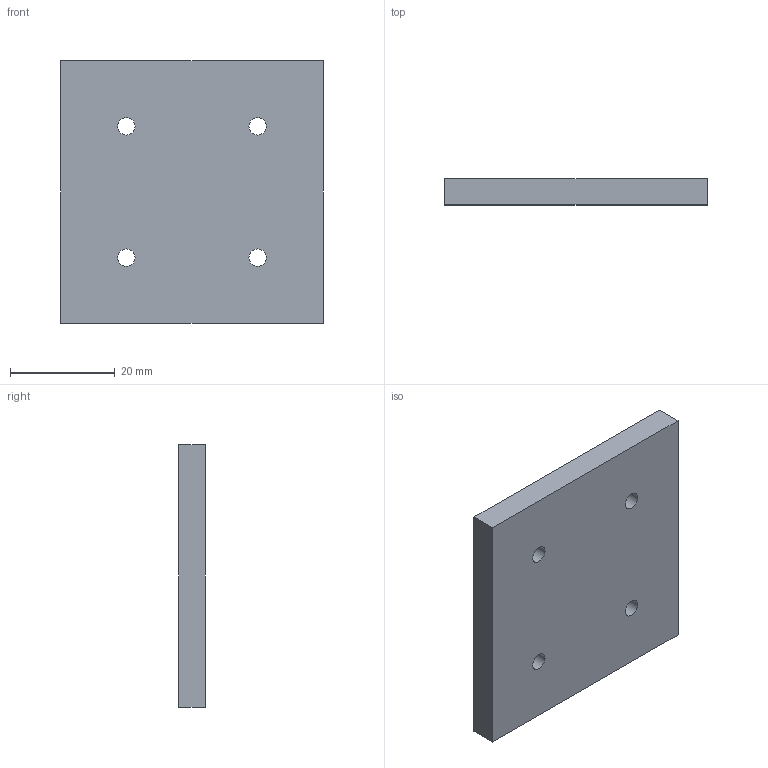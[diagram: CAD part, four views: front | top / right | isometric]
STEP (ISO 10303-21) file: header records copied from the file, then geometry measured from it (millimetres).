
FILE_DESCRIPTION(/* description */ (''),/* implementation_level */ '2;1');
FILE_NAME(/* name */ 'connection-2x2-thread.stp',/* time_stamp */ '2026-04-28T17:50:30+08:00',/* author */ ('32769'),/* organization */ (''),/* preprocessor_version */ 'ST-DEVELOPER v20',/* originating_system */ 'Autodesk Inventor 2025',/* authorisation */ '');
FILE_SCHEMA (('AUTOMOTIVE_DESIGN { 1 0 10303 214 3 1 1 }'));
Length unit declared in the file: millimetre
Products named in the file (1): connection-2x2-thread
Bounding box: 50 x 5 x 50 mm (x, y, z)
Volume: 12328.9 mm3; surface area: 6138.9 mm2
Topology: 1 solids, 1 shells, 10 faces, 24 edges, 16 vertices
Faces by surface type: plane 6, cylinder 4
Full cylindrical faces by diameter (mm): 3.3 x4
Entity records: 355 total; most frequent: DIRECTION 54, CARTESIAN_POINT 51, ORIENTED_EDGE 48, EDGE_CURVE 24, AXIS2_PLACEMENT_3D 19, EDGE_LOOP 18, LINE 16, VECTOR 16
